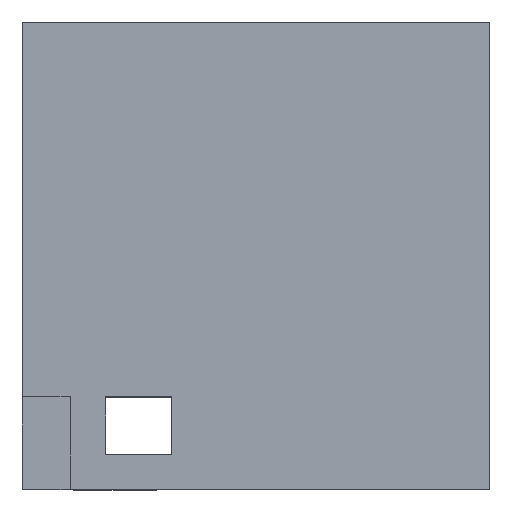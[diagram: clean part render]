
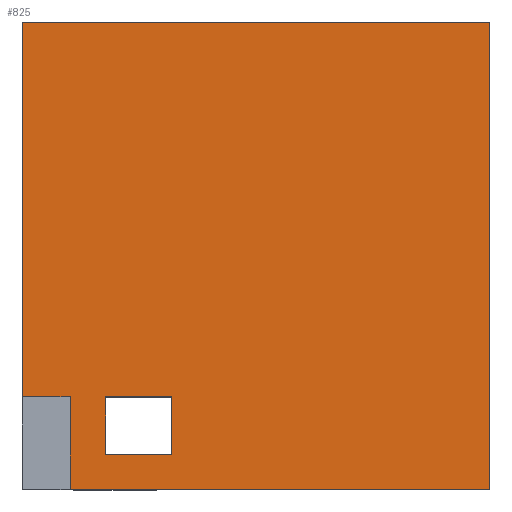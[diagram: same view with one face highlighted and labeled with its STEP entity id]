
A CAD part, top view. The second image highlights one B-rep face of the part: STEP entity #825.
In plain terms, the highlighted planar face has unit normal (0, 0, 1).
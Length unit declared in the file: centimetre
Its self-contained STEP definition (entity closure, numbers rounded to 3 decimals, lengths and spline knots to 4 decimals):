
#5 = EDGE_LOOP ( 'NONE', ( #206, #922, #1141, #568 ) ) ;
#10 = CARTESIAN_POINT ( 'NONE',  ( 0., 0., 1000. ) ) ;
#109 = CARTESIAN_POINT ( 'NONE',  ( 319.9169, 198.0028, 1000. ) ) ;
#122 = VERTEX_POINT ( 'NONE', #109 ) ;
#138 = CARTESIAN_POINT ( 'NONE',  ( 102.1737, 198.0028, 1000. ) ) ;
#167 = VECTOR ( 'NONE', #832, 100. ) ;
#173 = VECTOR ( 'NONE', #954, 100. ) ;
#178 = CARTESIAN_POINT ( 'NONE',  ( 102.1737, 198.0028, 1000. ) ) ;
#206 = ORIENTED_EDGE ( 'NONE', *, *, #1244, .F. ) ;
#212 = ORIENTED_EDGE ( 'NONE', *, *, #376, .F. ) ;
#229 = CARTESIAN_POINT ( 'NONE',  ( 0., 1000., 1000. ) ) ;
#278 = DIRECTION ( 'NONE',  ( 1., 0., 0. ) ) ;
#279 = VERTEX_POINT ( 'NONE', #138 ) ;
#281 = EDGE_CURVE ( 'NONE', #402, #614, #770, .T. ) ;
#300 = EDGE_CURVE ( 'NONE', #644, #540, #1664, .T. ) ;
#320 = DIRECTION ( 'NONE',  ( 0., 0., 1. ) ) ;
#324 = ORIENTED_EDGE ( 'NONE', *, *, #345, .T. ) ;
#345 = EDGE_CURVE ( 'NONE', #540, #1321, #561, .T. ) ;
#362 = VECTOR ( 'NONE', #278, 100. ) ;
#376 = EDGE_CURVE ( 'NONE', #279, #930, #1336, .T. ) ;
#402 = VERTEX_POINT ( 'NONE', #702 ) ;
#415 = CARTESIAN_POINT ( 'NONE',  ( 178.1531, 73.9359, 1000. ) ) ;
#420 = VECTOR ( 'NONE', #1137, 100. ) ;
#436 = DIRECTION ( 'NONE',  ( -1., 0., 0. ) ) ;
#450 = PLANE ( 'NONE',  #580 ) ;
#454 = ORIENTED_EDGE ( 'NONE', *, *, #836, .F. ) ;
#458 = LINE ( 'NONE', #1469, #167 ) ;
#486 = EDGE_CURVE ( 'NONE', #1321, #901, #1356, .T. ) ;
#489 = EDGE_CURVE ( 'NONE', #122, #1553, #984, .T. ) ;
#530 = CARTESIAN_POINT ( 'NONE',  ( 178.1531, 198.0028, 1000. ) ) ;
#540 = VERTEX_POINT ( 'NONE', #1020 ) ;
#544 = EDGE_CURVE ( 'NONE', #901, #930, #1153, .T. ) ;
#561 = LINE ( 'NONE', #1344, #173 ) ;
#568 = ORIENTED_EDGE ( 'NONE', *, *, #281, .F. ) ;
#580 = AXIS2_PLACEMENT_3D ( 'NONE', #703, #320, #959 ) ;
#583 = FACE_OUTER_BOUND ( 'NONE', #1394, .T. ) ;
#590 = CARTESIAN_POINT ( 'NONE',  ( 319.9169, 73.9359, 1000. ) ) ;
#591 = DIRECTION ( 'NONE',  ( -1., 0., 0. ) ) ;
#614 = VERTEX_POINT ( 'NONE', #754 ) ;
#644 = VERTEX_POINT ( 'NONE', #1633 ) ;
#658 = ORIENTED_EDGE ( 'NONE', *, *, #300, .T. ) ;
#702 = CARTESIAN_POINT ( 'NONE',  ( 178.1531, 73.9359, 1000. ) ) ;
#703 = CARTESIAN_POINT ( 'NONE',  ( 0., 0., 1000. ) ) ;
#710 = FACE_BOUND ( 'NONE', #5, .T. ) ;
#752 = VECTOR ( 'NONE', #1468, 100. ) ;
#754 = CARTESIAN_POINT ( 'NONE',  ( 319.9169, 73.9359, 1000. ) ) ;
#761 = DIRECTION ( 'NONE',  ( 0., -1., 0. ) ) ;
#770 = LINE ( 'NONE', #781, #1363 ) ;
#781 = CARTESIAN_POINT ( 'NONE',  ( 178.1531, 73.9359, 1000. ) ) ;
#825 = ADVANCED_FACE ( 'NONE', ( #583, #710 ), #450, .T. ) ;
#832 = DIRECTION ( 'NONE',  ( 0., 1., 0. ) ) ;
#836 = EDGE_CURVE ( 'NONE', #644, #279, #458, .T. ) ;
#901 = VERTEX_POINT ( 'NONE', #1479 ) ;
#922 = ORIENTED_EDGE ( 'NONE', *, *, #489, .F. ) ;
#930 = VERTEX_POINT ( 'NONE', #1219 ) ;
#951 = CARTESIAN_POINT ( 'NONE',  ( 1000., 1000., 1000. ) ) ;
#954 = DIRECTION ( 'NONE',  ( 0., 1., 0. ) ) ;
#958 = CARTESIAN_POINT ( 'NONE',  ( 178.1531, 198.0028, 1000. ) ) ;
#959 = DIRECTION ( 'NONE',  ( 1., 0., 0. ) ) ;
#984 = LINE ( 'NONE', #958, #752 ) ;
#1005 = VECTOR ( 'NONE', #1099, 100. ) ;
#1020 = CARTESIAN_POINT ( 'NONE',  ( 1000., 0., 1000. ) ) ;
#1099 = DIRECTION ( 'NONE',  ( 0., 1., 0. ) ) ;
#1137 = DIRECTION ( 'NONE',  ( 0., -1., 0. ) ) ;
#1141 = ORIENTED_EDGE ( 'NONE', *, *, #1397, .F. ) ;
#1146 = ORIENTED_EDGE ( 'NONE', *, *, #544, .T. ) ;
#1153 = LINE ( 'NONE', #229, #420 ) ;
#1174 = LINE ( 'NONE', #415, #1435 ) ;
#1197 = VECTOR ( 'NONE', #591, 100. ) ;
#1219 = CARTESIAN_POINT ( 'NONE',  ( 0., 198.0028, 1000. ) ) ;
#1228 = CARTESIAN_POINT ( 'NONE',  ( 0., 1000., 1000. ) ) ;
#1244 = EDGE_CURVE ( 'NONE', #1553, #402, #1174, .T. ) ;
#1321 = VERTEX_POINT ( 'NONE', #951 ) ;
#1336 = LINE ( 'NONE', #178, #1493 ) ;
#1344 = CARTESIAN_POINT ( 'NONE',  ( 1000., 1000., 1000. ) ) ;
#1353 = LINE ( 'NONE', #590, #1005 ) ;
#1356 = LINE ( 'NONE', #1228, #1197 ) ;
#1363 = VECTOR ( 'NONE', #1442, 100. ) ;
#1394 = EDGE_LOOP ( 'NONE', ( #212, #454, #658, #324, #1660, #1146 ) ) ;
#1397 = EDGE_CURVE ( 'NONE', #614, #122, #1353, .T. ) ;
#1435 = VECTOR ( 'NONE', #761, 100. ) ;
#1442 = DIRECTION ( 'NONE',  ( 1., 0., 0. ) ) ;
#1468 = DIRECTION ( 'NONE',  ( -1., 0., 0. ) ) ;
#1469 = CARTESIAN_POINT ( 'NONE',  ( 102.1737, 0., 1000. ) ) ;
#1479 = CARTESIAN_POINT ( 'NONE',  ( 0., 1000., 1000. ) ) ;
#1493 = VECTOR ( 'NONE', #436, 100. ) ;
#1553 = VERTEX_POINT ( 'NONE', #530 ) ;
#1633 = CARTESIAN_POINT ( 'NONE',  ( 102.1737, 0., 1000. ) ) ;
#1660 = ORIENTED_EDGE ( 'NONE', *, *, #486, .T. ) ;
#1664 = LINE ( 'NONE', #10, #362 ) ;
